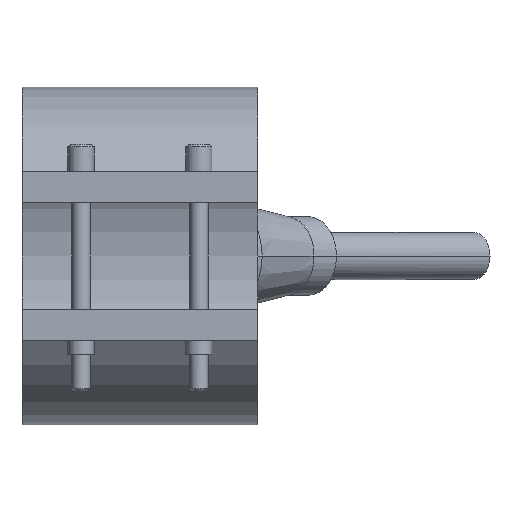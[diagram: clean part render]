
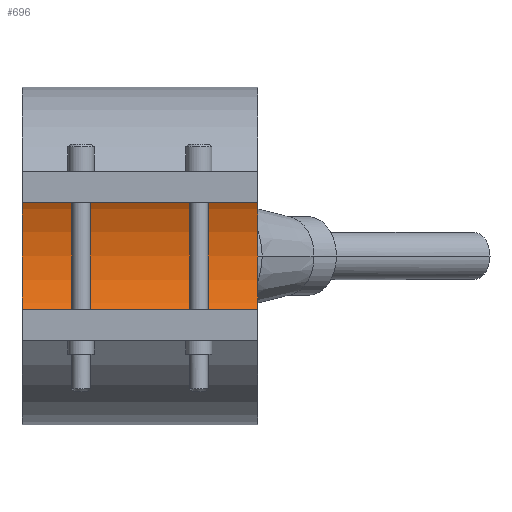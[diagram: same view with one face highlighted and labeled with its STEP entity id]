
A CAD part, front view. The second image highlights one B-rep face of the part: STEP entity #696.
In plain terms, the highlighted cylindrical face has radius 17.5 mm (diameter 35 mm), a partial arc.
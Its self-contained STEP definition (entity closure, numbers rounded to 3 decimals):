
#366=CARTESIAN_POINT('Vertex',(15.,0.,17.5)) ;
#371=CARTESIAN_POINT('Axis2P3D Location',(15.,0.,0.)) ;
#375=CARTESIAN_POINT('Vertex',(15.,0.,-17.5)) ;
#482=CARTESIAN_POINT('Vertex',(-15.,0.,-17.5)) ;
#485=CARTESIAN_POINT('Axis2P3D Location',(-15.,0.,0.)) ;
#489=CARTESIAN_POINT('Vertex',(-15.,0.,17.5)) ;
#668=CARTESIAN_POINT('Line Origine',(15.,0.,17.5)) ;
#680=CARTESIAN_POINT('Axis2P3D Location',(15.,0.,0.)) ;
#685=CARTESIAN_POINT('Line Origine',(15.,0.,-17.5)) ;
#372=DIRECTION('Axis2P3D Direction',(1.,0.,0.)) ;
#486=DIRECTION('Axis2P3D Direction',(1.,0.,0.)) ;
#669=DIRECTION('Vector Direction',(1.,0.,0.)) ;
#681=DIRECTION('Axis2P3D Direction',(1.,0.,-0.)) ;
#682=DIRECTION('Axis2P3D XDirection',(0.,0.,-1.)) ;
#686=DIRECTION('Vector Direction',(1.,0.,0.)) ;
#373=AXIS2_PLACEMENT_3D('Circle Axis2P3D',#371,#372,$) ;
#487=AXIS2_PLACEMENT_3D('Circle Axis2P3D',#485,#486,$) ;
#683=AXIS2_PLACEMENT_3D('Cylinder Axis2P3D',#680,#681,#682) ;
#691=ORIENTED_EDGE('',*,*,#377,.T.) ;
#692=ORIENTED_EDGE('',*,*,#672,.T.) ;
#693=ORIENTED_EDGE('',*,*,#491,.F.) ;
#694=ORIENTED_EDGE('',*,*,#689,.T.) ;
#670=VECTOR('Line Direction',#669,1.) ;
#687=VECTOR('Line Direction',#686,1.) ;
#696=ADVANCED_FACE('29035030',(#695),#684,.F.) ;
#374=CIRCLE('generated circle',#373,17.5) ;
#488=CIRCLE('generated circle',#487,17.5) ;
#684=CYLINDRICAL_SURFACE('generated cylinder',#683,17.5) ;
#377=EDGE_CURVE('',#376,#367,#374,.T.) ;
#491=EDGE_CURVE('',#483,#490,#488,.T.) ;
#672=EDGE_CURVE('',#367,#490,#671,.F.) ;
#689=EDGE_CURVE('',#483,#376,#688,.T.) ;
#690=EDGE_LOOP('',(#691,#692,#693,#694)) ;
#695=FACE_OUTER_BOUND('',#690,.T.) ;
#671=LINE('Line',#668,#670) ;
#688=LINE('Line',#685,#687) ;
#367=VERTEX_POINT('',#366) ;
#376=VERTEX_POINT('',#375) ;
#483=VERTEX_POINT('',#482) ;
#490=VERTEX_POINT('',#489) ;
